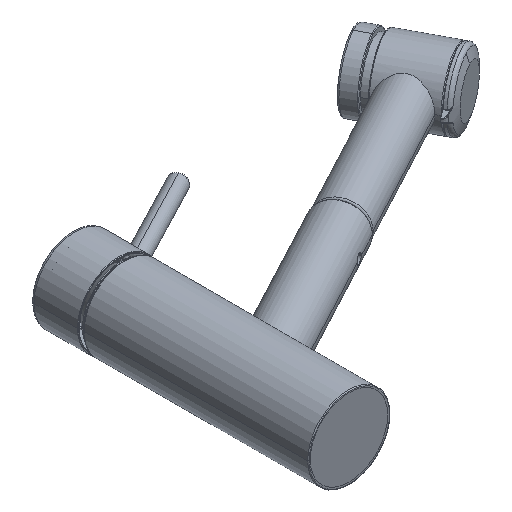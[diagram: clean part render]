
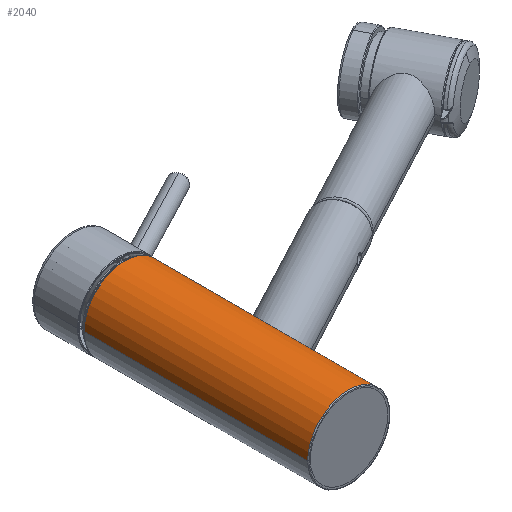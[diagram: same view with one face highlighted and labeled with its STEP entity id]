
A CAD part, isometric view. The second image highlights one B-rep face of the part: STEP entity #2040.
In plain terms, the highlighted cylindrical face has radius 26.5 mm (diameter 53 mm), a partial arc.
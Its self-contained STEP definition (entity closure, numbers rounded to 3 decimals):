
#139=DIRECTION('',(0.,1.,0.));
#140=VECTOR('',#139,52.989);
#141=CARTESIAN_POINT('',(26.5,92.561,0.));
#142=LINE('',#141,#140);
#148=DIRECTION('',(0.,1.,0.));
#149=VECTOR('',#148,55.469);
#150=CARTESIAN_POINT('',(26.5,0.85,0.));
#151=LINE('',#150,#149);
#152=CARTESIAN_POINT('',(26.5,92.561,0.));
#153=CARTESIAN_POINT('',(26.5,92.561,0.453));
#154=CARTESIAN_POINT('',(26.477,92.505,1.362));
#155=CARTESIAN_POINT('',(26.371,92.25,2.731));
#156=CARTESIAN_POINT('',(26.192,91.816,4.106));
#157=CARTESIAN_POINT('',(25.938,91.189,5.494));
#158=CARTESIAN_POINT('',(25.595,90.33,6.92));
#159=CARTESIAN_POINT('',(25.163,89.221,8.358));
#160=CARTESIAN_POINT('',(24.635,87.817,9.806));
#161=CARTESIAN_POINT('',(24.023,86.102,11.222));
#162=CARTESIAN_POINT('',(23.346,84.059,12.567));
#163=CARTESIAN_POINT('',(22.665,81.766,13.75));
#164=CARTESIAN_POINT('',(22.062,79.38,14.691));
#165=CARTESIAN_POINT('',(21.589,77.008,15.373));
#166=CARTESIAN_POINT('',(21.279,74.787,15.795));
#167=CARTESIAN_POINT('',(21.126,72.722,15.999));
#168=CARTESIAN_POINT('',(21.114,70.821,16.014));
#169=CARTESIAN_POINT('',(21.229,69.044,15.863));
#170=CARTESIAN_POINT('',(21.456,67.389,15.555));
#171=CARTESIAN_POINT('',(21.785,65.829,15.094));
#172=CARTESIAN_POINT('',(22.207,64.346,14.468));
#173=CARTESIAN_POINT('',(22.704,62.959,13.68));
#174=CARTESIAN_POINT('',(23.264,61.652,12.709));
#175=CARTESIAN_POINT('',(23.858,60.454,11.561));
#176=CARTESIAN_POINT('',(24.458,59.379,10.24));
#177=CARTESIAN_POINT('',(25.03,58.442,8.754));
#178=CARTESIAN_POINT('',(25.536,57.672,7.152));
#179=CARTESIAN_POINT('',(25.956,57.066,5.44));
#180=CARTESIAN_POINT('',(26.266,56.635,3.666));
#181=CARTESIAN_POINT('',(26.458,56.376,1.836));
#182=CARTESIAN_POINT('',(26.5,56.319,0.613));
#183=CARTESIAN_POINT('',(26.5,56.319,0.));
#185=DIRECTION('',(0.,1.,0.));
#186=VECTOR('',#185,144.7);
#187=CARTESIAN_POINT('',(-26.5,0.85,0.));
#188=LINE('',#187,#186);
#189=CARTESIAN_POINT('',(0.,145.55,0.));
#190=DIRECTION('',(0.,1.,0.));
#191=DIRECTION('',(-1.,0.,0.));
#192=AXIS2_PLACEMENT_3D('',#189,#190,#191);
#1203=CARTESIAN_POINT('',(0.,0.85,0.));
#1204=DIRECTION('',(0.,-1.,0.));
#1205=DIRECTION('',(1.,0.,0.));
#1206=AXIS2_PLACEMENT_3D('',#1203,#1204,#1205);
#1623=CARTESIAN_POINT('',(26.5,0.85,0.));
#1624=CARTESIAN_POINT('',(-26.5,0.85,0.));
#1625=VERTEX_POINT('',#1623);
#1626=VERTEX_POINT('',#1624);
#1635=CARTESIAN_POINT('',(-26.5,145.55,0.));
#1636=CARTESIAN_POINT('',(26.5,145.55,0.));
#1637=VERTEX_POINT('',#1635);
#1638=VERTEX_POINT('',#1636);
#1717=VERTEX_POINT('',#152);
#1718=VERTEX_POINT('',#183);
#2024=CARTESIAN_POINT('',(0.,0.35,0.));
#2025=DIRECTION('',(0.,1.,0.));
#2026=DIRECTION('',(-1.,0.,0.));
#2027=AXIS2_PLACEMENT_3D('',#2024,#2025,#2026);
#2028=CYLINDRICAL_SURFACE('',#2027,26.5);
#2030=ORIENTED_EDGE('',*,*,#2029,.T.);
#2031=ORIENTED_EDGE('',*,*,#2012,.F.);
#2033=ORIENTED_EDGE('',*,*,#2032,.T.);
#2034=ORIENTED_EDGE('',*,*,#2008,.T.);
#2036=ORIENTED_EDGE('',*,*,#2035,.T.);
#2037=ORIENTED_EDGE('',*,*,#2004,.F.);
#2038=EDGE_LOOP('',(#2030,#2031,#2033,#2034,#2036,#2037));
#2039=FACE_OUTER_BOUND('',#2038,.F.);
#184=B_SPLINE_CURVE_WITH_KNOTS('',3,(#152,#153,#154,#155,#156,#157,#158,#159,
#160,#161,#162,#163,#164,#165,#166,#167,#168,#169,#170,#171,#172,#173,#174,#175,
#176,#177,#178,#179,#180,#181,#182,#183),.UNSPECIFIED.,.F.,.F.,(4,1,1,1,1,1,1,1,
1,1,1,1,1,1,1,1,1,1,1,1,1,1,1,1,1,1,1,1,1,4),(0.,0.034,
0.069,0.103,0.138,0.172,
0.207,0.241,0.276,0.31,
0.345,0.379,0.414,0.448,
0.483,0.517,0.552,0.586,
0.621,0.655,0.69,0.724,
0.759,0.793,0.828,0.862,
0.897,0.931,0.966,1.),.UNSPECIFIED.);
#193=CIRCLE('',#192,26.5);
#1207=CIRCLE('',#1206,26.5);
#2004=EDGE_CURVE('',#1717,#1638,#142,.T.);
#2008=EDGE_CURVE('',#1626,#1637,#188,.T.);
#2012=EDGE_CURVE('',#1625,#1718,#151,.T.);
#2029=EDGE_CURVE('',#1717,#1718,#184,.T.);
#2032=EDGE_CURVE('',#1625,#1626,#1207,.T.);
#2035=EDGE_CURVE('',#1637,#1638,#193,.T.);
#2040=ADVANCED_FACE('',(#2039),#2028,.T.);
